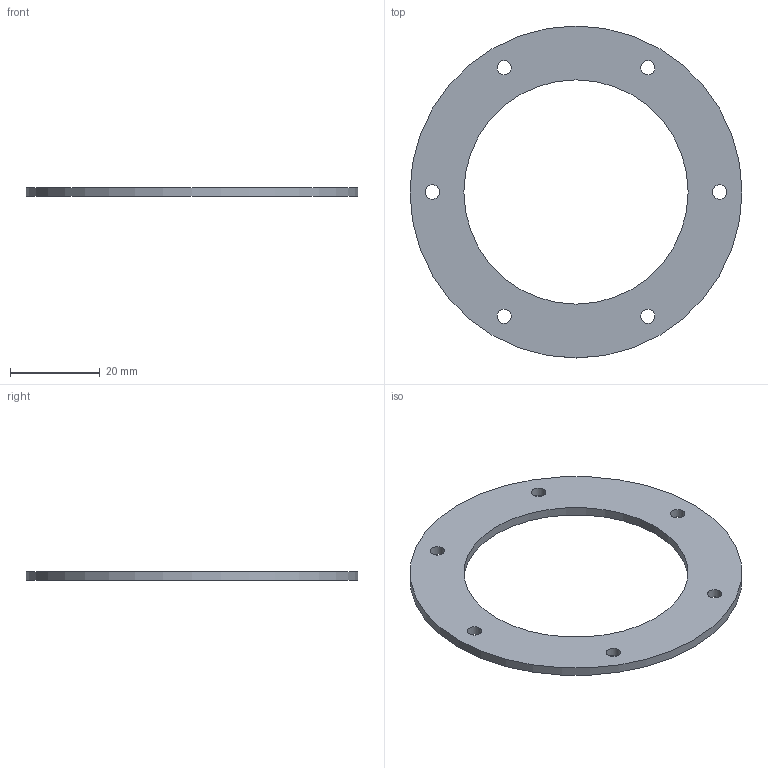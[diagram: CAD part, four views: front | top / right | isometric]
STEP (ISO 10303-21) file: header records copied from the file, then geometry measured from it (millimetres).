
FILE_DESCRIPTION(('Open CASCADE Model'),'2;1');
FILE_NAME('Open CASCADE Shape Model','2026-11-05T02:23:55',('Author'),( 'Open CASCADE'),'Open CASCADE STEP processor 7.8','Open CASCADE 7.8' ,'Unknown');
FILE_SCHEMA(('AUTOMOTIVE_DESIGN { 1 0 10303 214 1 1 1 1 }'));
Length unit declared in the file: millimetre
Products named in the file (1): Open CASCADE STEP translator 7.8 12
Bounding box: 74 x 74 x 2 mm (x, y, z)
Volume: 4578.2 mm3; surface area: 5477.9 mm2
Topology: 1 solids, 1 shells, 10 faces, 24 edges, 16 vertices
Faces by surface type: cylinder 8, plane 2
Full cylindrical faces by diameter (mm): 3.2 x6, 50 x1, 74 x1
Entity records: 660 total; most frequent: CARTESIAN_POINT 111, DIRECTION 108, ORIENTED_EDGE 48, PCURVE 48, DEFINITIONAL_REPRESENTATION 48, LINE 40, VECTOR 40, CIRCLE 30
